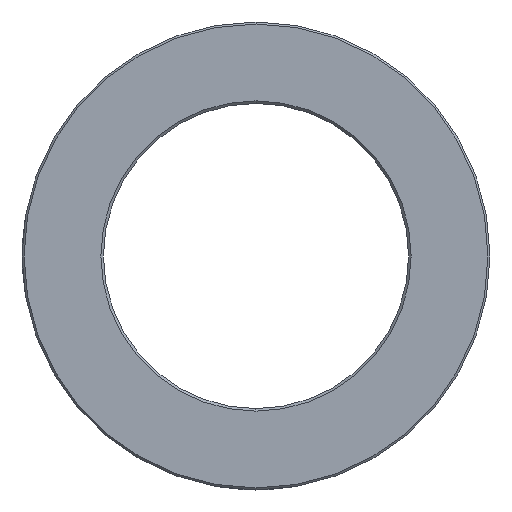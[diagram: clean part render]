
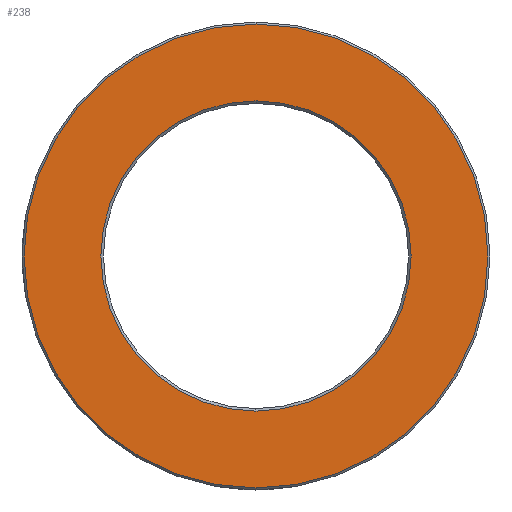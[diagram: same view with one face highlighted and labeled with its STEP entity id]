
A CAD part, left-side view. The second image highlights one B-rep face of the part: STEP entity #238.
In plain terms, the highlighted planar face has unit normal (-1, 0, 0).
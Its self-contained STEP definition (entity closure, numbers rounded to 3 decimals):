
#38 = CARTESIAN_POINT ( 'NONE',  ( -13., 0., 0. ) ) ;
#56 = CIRCLE ( 'NONE', #608, 22.8 ) ;
#68 = CARTESIAN_POINT ( 'NONE',  ( -13., 22.8, 0. ) ) ;
#73 = CARTESIAN_POINT ( 'NONE',  ( -13., 0., 22.8 ) ) ;
#100 = CIRCLE ( 'NONE', #557, 22.8 ) ;
#103 = ORIENTED_EDGE ( 'NONE', *, *, #566, .F. ) ;
#108 = CARTESIAN_POINT ( 'NONE',  ( -13., 0., 15.25 ) ) ;
#125 = DIRECTION ( 'NONE',  ( 1., 0., 0. ) ) ;
#127 = VERTEX_POINT ( 'NONE', #209 ) ;
#165 = VERTEX_POINT ( 'NONE', #73 ) ;
#197 = ORIENTED_EDGE ( 'NONE', *, *, #705, .F. ) ;
#209 = CARTESIAN_POINT ( 'NONE',  ( -13., 0., -22.8 ) ) ;
#230 = AXIS2_PLACEMENT_3D ( 'NONE', #68, #125, #730 ) ;
#235 = DIRECTION ( 'NONE',  ( -1., 0., 0. ) ) ;
#238 = ADVANCED_FACE ( 'NONE', ( #681, #414 ), #743, .F. ) ;
#255 = AXIS2_PLACEMENT_3D ( 'NONE', #38, #235, #515 ) ;
#265 = ORIENTED_EDGE ( 'NONE', *, *, #288, .T. ) ;
#288 = EDGE_CURVE ( 'NONE', #165, #127, #100, .T. ) ;
#297 = VERTEX_POINT ( 'NONE', #698 ) ;
#346 = DIRECTION ( 'NONE',  ( 0., 0., 1. ) ) ;
#414 = FACE_OUTER_BOUND ( 'NONE', #830, .T. ) ;
#463 = CIRCLE ( 'NONE', #752, 15.25 ) ;
#515 = DIRECTION ( 'NONE',  ( 0., 0., 1. ) ) ;
#548 = EDGE_LOOP ( 'NONE', ( #103, #197 ) ) ;
#555 = DIRECTION ( 'NONE',  ( -1., 0., 0. ) ) ;
#557 = AXIS2_PLACEMENT_3D ( 'NONE', #820, #754, #346 ) ;
#566 = EDGE_CURVE ( 'NONE', #810, #297, #463, .T. ) ;
#599 = EDGE_CURVE ( 'NONE', #127, #165, #56, .T. ) ;
#607 = CARTESIAN_POINT ( 'NONE',  ( -13., 0., 0. ) ) ;
#608 = AXIS2_PLACEMENT_3D ( 'NONE', #607, #555, #873 ) ;
#665 = CIRCLE ( 'NONE', #255, 15.25 ) ;
#681 = FACE_BOUND ( 'NONE', #548, .T. ) ;
#684 = DIRECTION ( 'NONE',  ( -1., 0., 0. ) ) ;
#698 = CARTESIAN_POINT ( 'NONE',  ( -13., 0., -15.25 ) ) ;
#705 = EDGE_CURVE ( 'NONE', #297, #810, #665, .T. ) ;
#730 = DIRECTION ( 'NONE',  ( 0., 0., -1. ) ) ;
#743 = PLANE ( 'NONE',  #230 ) ;
#751 = DIRECTION ( 'NONE',  ( 0., 0., 1. ) ) ;
#752 = AXIS2_PLACEMENT_3D ( 'NONE', #758, #684, #751 ) ;
#754 = DIRECTION ( 'NONE',  ( -1., 0., 0. ) ) ;
#758 = CARTESIAN_POINT ( 'NONE',  ( -13., 0., 0. ) ) ;
#775 = ORIENTED_EDGE ( 'NONE', *, *, #599, .T. ) ;
#810 = VERTEX_POINT ( 'NONE', #108 ) ;
#820 = CARTESIAN_POINT ( 'NONE',  ( -13., 0., 0. ) ) ;
#830 = EDGE_LOOP ( 'NONE', ( #775, #265 ) ) ;
#873 = DIRECTION ( 'NONE',  ( 0., 0., 1. ) ) ;
